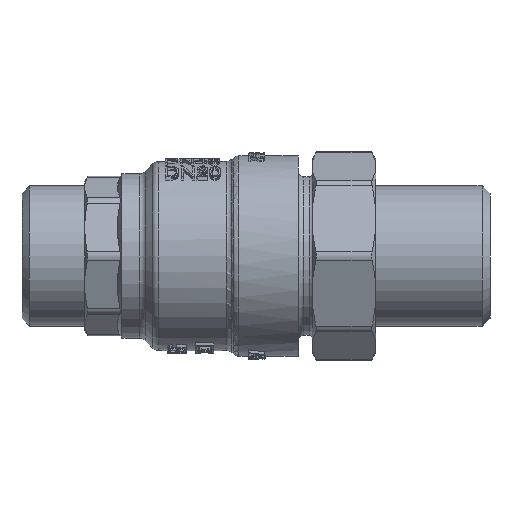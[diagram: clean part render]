
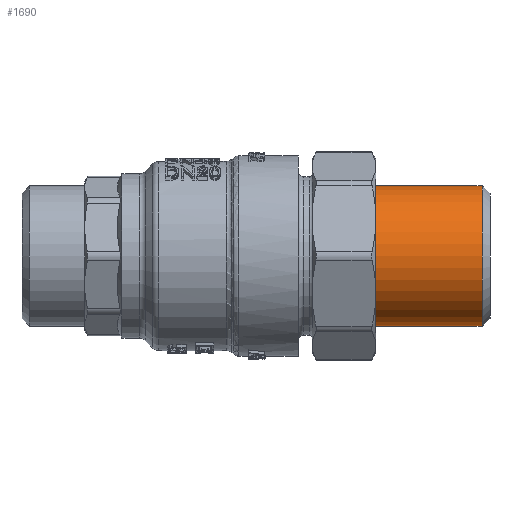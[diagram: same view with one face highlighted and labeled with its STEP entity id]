
A CAD part, front view. The second image highlights one B-rep face of the part: STEP entity #1690.
In plain terms, the highlighted cylindrical face has radius 13.22 mm (diameter 26.441 mm), a full revolution.
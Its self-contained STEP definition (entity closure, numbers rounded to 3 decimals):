
#1690=ADVANCED_FACE('',(#14369,#14371),#14373,.T.);
#14369=FACE_OUTER_BOUND('',#14370,.T.);
#14370=EDGE_LOOP('',(#25787));
#14371=FACE_OUTER_BOUND('',#14372,.T.);
#14372=EDGE_LOOP('',(#25788));
#14373=CYLINDRICAL_SURFACE('',#14374,13.221);
#14374=AXIS2_PLACEMENT_3D('',#14375,#14376,#14377);
#14375=CARTESIAN_POINT('',(23.123,0.,0.));
#14376=DIRECTION('',(1.,0.,0.));
#14377=DIRECTION('',(0.,0.,-1.));
#25787=ORIENTED_EDGE('',*,*,#31639,.F.);
#25788=ORIENTED_EDGE('',*,*,#31628,.F.);
#31628=EDGE_CURVE('',#40079,#40079,#40080,.F.);
#31639=EDGE_CURVE('',#40092,#40092,#40093,.T.);
#40079=VERTEX_POINT('',#68480);
#40080=CIRCLE('',#68481,13.221);
#40092=VERTEX_POINT('',#68517);
#40093=CIRCLE('',#68518,13.221);
#68480=CARTESIAN_POINT('',(30.623,0.,-13.221));
#68481=AXIS2_PLACEMENT_3D('',#68482,#68483,#68484);
#68482=CARTESIAN_POINT('',(30.623,0.,0.));
#68483=DIRECTION('',(1.,0.,0.));
#68484=DIRECTION('',(0.,0.,-1.));
#68517=CARTESIAN_POINT('',(52.623,0.,-13.221));
#68518=AXIS2_PLACEMENT_3D('',#68519,#68520,#68521);
#68519=CARTESIAN_POINT('',(52.623,0.,0.));
#68520=DIRECTION('',(1.,0.,0.));
#68521=DIRECTION('',(0.,0.,-1.));
